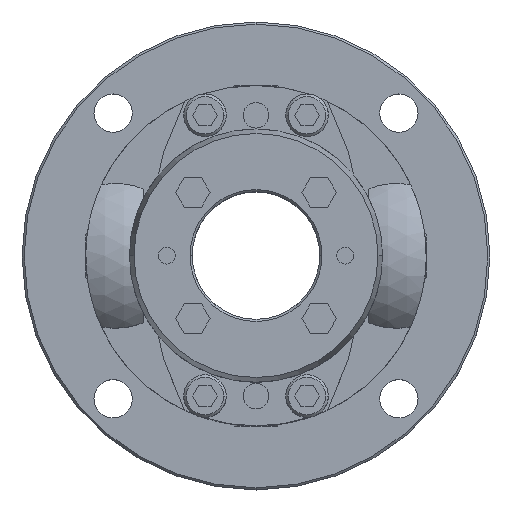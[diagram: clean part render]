
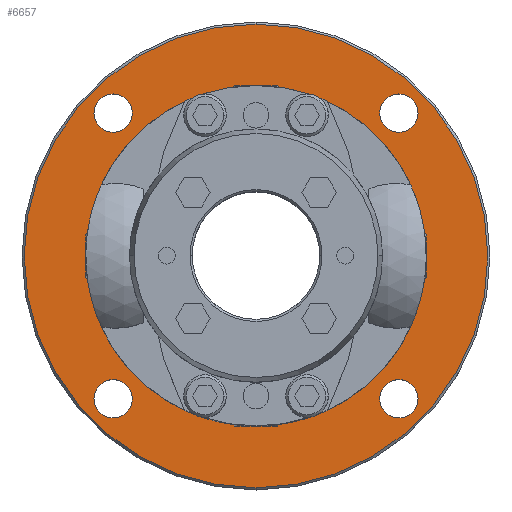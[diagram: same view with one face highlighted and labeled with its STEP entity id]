
A CAD part, top view. The second image highlights one B-rep face of the part: STEP entity #6657.
In plain terms, the highlighted planar face has unit normal (0, 0, 1).
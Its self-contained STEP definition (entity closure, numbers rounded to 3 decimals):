
#730=CARTESIAN_POINT('',(0.,-40.0,-16.0));
#731=VERTEX_POINT('',#730);
#847=CARTESIAN_POINT('',(0.,40.0,-16.0));
#848=VERTEX_POINT('',#847);
#855=CARTESIAN_POINT('',(0.0,0.0,-16.0));
#856=DIRECTION('',(0.0,0.0,-1.0));
#857=DIRECTION('',(0.0,1.0,0.0));
#858=AXIS2_PLACEMENT_3D('',#855,#856,#857);
#859=CIRCLE('',#858,40.0);
#860=EDGE_CURVE('',#731,#848,#859,.T.);
#1357=CARTESIAN_POINT('',(-33.588,38.088,-16.0));
#1358=VERTEX_POINT('',#1357);
#1367=CARTESIAN_POINT('',(-33.588,29.088,-16.0));
#1368=VERTEX_POINT('',#1367);
#1369=CARTESIAN_POINT('',(-33.588,33.588,-16.0));
#1370=DIRECTION('',(0.0,0.0,-1.0));
#1371=DIRECTION('',(0.0,1.0,0.0));
#1372=AXIS2_PLACEMENT_3D('',#1369,#1370,#1371);
#1373=CIRCLE('',#1372,4.5);
#1374=EDGE_CURVE('',#1368,#1358,#1373,.T.);
#1399=CARTESIAN_POINT('',(33.588,38.088,-16.0));
#1400=VERTEX_POINT('',#1399);
#1409=CARTESIAN_POINT('',(33.588,29.088,-16.0));
#1410=VERTEX_POINT('',#1409);
#1411=CARTESIAN_POINT('',(33.588,33.588,-16.0));
#1412=DIRECTION('',(0.0,0.0,-1.0));
#1413=DIRECTION('',(0.0,1.0,0.0));
#1414=AXIS2_PLACEMENT_3D('',#1411,#1412,#1413);
#1415=CIRCLE('',#1414,4.5);
#1416=EDGE_CURVE('',#1410,#1400,#1415,.T.);
#1441=CARTESIAN_POINT('',(33.588,-29.088,-16.0));
#1442=VERTEX_POINT('',#1441);
#1451=CARTESIAN_POINT('',(33.588,-38.088,-16.0));
#1452=VERTEX_POINT('',#1451);
#1453=CARTESIAN_POINT('',(33.588,-33.588,-16.0));
#1454=DIRECTION('',(0.0,0.0,-1.0));
#1455=DIRECTION('',(0.0,1.0,0.0));
#1456=AXIS2_PLACEMENT_3D('',#1453,#1454,#1455);
#1457=CIRCLE('',#1456,4.5);
#1458=EDGE_CURVE('',#1452,#1442,#1457,.T.);
#1483=CARTESIAN_POINT('',(-33.588,-29.088,-16.0));
#1484=VERTEX_POINT('',#1483);
#1493=CARTESIAN_POINT('',(-33.588,-38.088,-16.0));
#1494=VERTEX_POINT('',#1493);
#1495=CARTESIAN_POINT('',(-33.588,-33.588,-16.0));
#1496=DIRECTION('',(0.0,0.0,-1.0));
#1497=DIRECTION('',(0.0,1.0,0.0));
#1498=AXIS2_PLACEMENT_3D('',#1495,#1496,#1497);
#1499=CIRCLE('',#1498,4.5);
#1500=EDGE_CURVE('',#1494,#1484,#1499,.T.);
#2031=CARTESIAN_POINT('',(0.,-54.5,-16.0));
#2032=VERTEX_POINT('',#2031);
#2041=CARTESIAN_POINT('',(0.,54.5,-16.0));
#2042=VERTEX_POINT('',#2041);
#2043=CARTESIAN_POINT('',(0.0,0.0,-16.0));
#2044=DIRECTION('',(0.0,0.0,-1.0));
#2045=DIRECTION('',(0.0,-1.0,0.0));
#2046=AXIS2_PLACEMENT_3D('',#2043,#2044,#2045);
#2047=CIRCLE('',#2046,54.5);
#2048=EDGE_CURVE('',#2032,#2042,#2047,.T.);
#6588=CARTESIAN_POINT('',(0.0,0.0,-16.0));
#6589=DIRECTION('',(0.0,0.0,-1.0));
#6590=DIRECTION('',(0.0,-1.0,0.0));
#6591=AXIS2_PLACEMENT_3D('',#6588,#6589,#6590);
#6592=CIRCLE('',#6591,54.5);
#6593=EDGE_CURVE('',#2042,#2032,#6592,.T.);
#6598=CARTESIAN_POINT('',(0.,5.,-16.0));
#6599=DIRECTION('',(0.0,0.0,1.0));
#6600=DIRECTION('',(0.0,1.0,0.0));
#6601=AXIS2_PLACEMENT_3D('',#6598,#6599,#6600);
#6602=PLANE('',#6601);
#6603=ORIENTED_EDGE('',*,*,#6593,.F.);
#6604=ORIENTED_EDGE('',*,*,#2048,.F.);
#6605=EDGE_LOOP('',(#6603,#6604));
#6606=FACE_OUTER_BOUND('',#6605,.T.);
#6607=ORIENTED_EDGE('',*,*,#860,.T.);
#6608=CARTESIAN_POINT('',(0.0,0.0,-16.0));
#6609=DIRECTION('',(0.0,0.0,-1.0));
#6610=DIRECTION('',(0.0,1.0,0.0));
#6611=AXIS2_PLACEMENT_3D('',#6608,#6609,#6610);
#6612=CIRCLE('',#6611,40.0);
#6613=EDGE_CURVE('',#848,#731,#6612,.T.);
#6614=ORIENTED_EDGE('',*,*,#6613,.T.);
#6615=EDGE_LOOP('',(#6607,#6614));
#6616=FACE_BOUND('',#6615,.T.);
#6617=ORIENTED_EDGE('',*,*,#1374,.T.);
#6618=CARTESIAN_POINT('',(-33.588,33.588,-16.0));
#6619=DIRECTION('',(0.0,0.0,-1.0));
#6620=DIRECTION('',(0.0,1.0,0.0));
#6621=AXIS2_PLACEMENT_3D('',#6618,#6619,#6620);
#6622=CIRCLE('',#6621,4.5);
#6623=EDGE_CURVE('',#1358,#1368,#6622,.T.);
#6624=ORIENTED_EDGE('',*,*,#6623,.T.);
#6625=EDGE_LOOP('',(#6617,#6624));
#6626=FACE_BOUND('',#6625,.T.);
#6627=ORIENTED_EDGE('',*,*,#1416,.T.);
#6628=CARTESIAN_POINT('',(33.588,33.588,-16.0));
#6629=DIRECTION('',(0.0,0.0,-1.0));
#6630=DIRECTION('',(0.0,1.0,0.0));
#6631=AXIS2_PLACEMENT_3D('',#6628,#6629,#6630);
#6632=CIRCLE('',#6631,4.5);
#6633=EDGE_CURVE('',#1400,#1410,#6632,.T.);
#6634=ORIENTED_EDGE('',*,*,#6633,.T.);
#6635=EDGE_LOOP('',(#6627,#6634));
#6636=FACE_BOUND('',#6635,.T.);
#6637=ORIENTED_EDGE('',*,*,#1458,.T.);
#6638=CARTESIAN_POINT('',(33.588,-33.588,-16.0));
#6639=DIRECTION('',(0.0,0.0,-1.0));
#6640=DIRECTION('',(0.0,1.0,0.0));
#6641=AXIS2_PLACEMENT_3D('',#6638,#6639,#6640);
#6642=CIRCLE('',#6641,4.5);
#6643=EDGE_CURVE('',#1442,#1452,#6642,.T.);
#6644=ORIENTED_EDGE('',*,*,#6643,.T.);
#6645=EDGE_LOOP('',(#6637,#6644));
#6646=FACE_BOUND('',#6645,.T.);
#6647=ORIENTED_EDGE('',*,*,#1500,.T.);
#6648=CARTESIAN_POINT('',(-33.588,-33.588,-16.0));
#6649=DIRECTION('',(0.0,0.0,-1.0));
#6650=DIRECTION('',(0.0,1.0,0.0));
#6651=AXIS2_PLACEMENT_3D('',#6648,#6649,#6650);
#6652=CIRCLE('',#6651,4.5);
#6653=EDGE_CURVE('',#1484,#1494,#6652,.T.);
#6654=ORIENTED_EDGE('',*,*,#6653,.T.);
#6655=EDGE_LOOP('',(#6647,#6654));
#6656=FACE_BOUND('',#6655,.T.);
#6657=ADVANCED_FACE('',(#6606,#6616,#6626,#6636,#6646,#6656),#6602,.T.);
